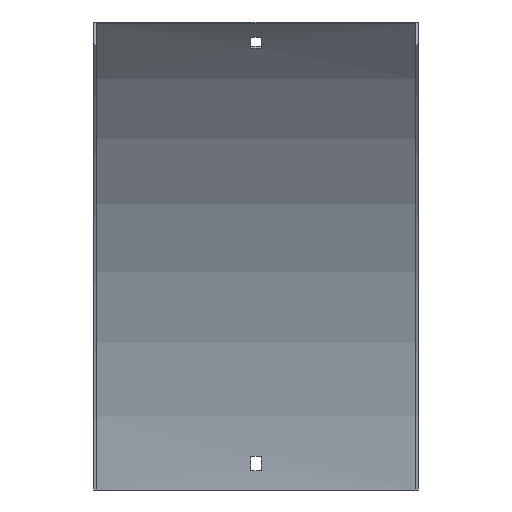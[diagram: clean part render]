
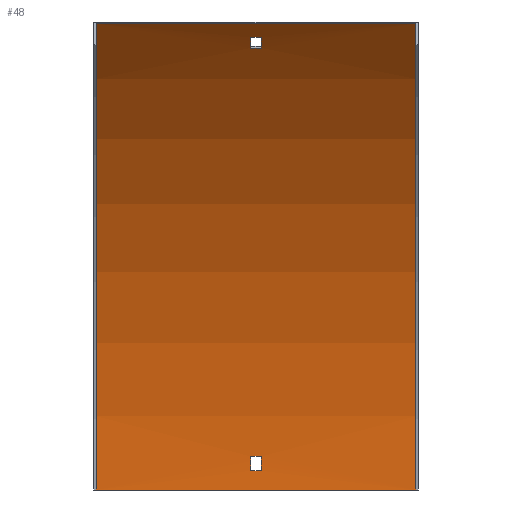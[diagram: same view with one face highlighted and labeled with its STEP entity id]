
A CAD part, front view. The second image highlights one B-rep face of the part: STEP entity #48.
In plain terms, the highlighted cylindrical face has radius 412.5 mm (diameter 825 mm), a partial arc.
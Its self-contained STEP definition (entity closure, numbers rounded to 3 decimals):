
#1 = VERTEX_POINT ( 'NONE', #219 ) ;
#3 = DIRECTION ( 'NONE',  ( 0., 0., 1. ) ) ;
#10 = LINE ( 'NONE', #348, #560 ) ;
#13 = VERTEX_POINT ( 'NONE', #375 ) ;
#16 = DIRECTION ( 'NONE',  ( 1., 0., 0. ) ) ;
#20 = EDGE_CURVE ( 'NONE', #205, #481, #157, .T. ) ;
#26 = VERTEX_POINT ( 'NONE', #268 ) ;
#29 = DIRECTION ( 'NONE',  ( 0., 0., 1. ) ) ;
#32 = EDGE_CURVE ( 'NONE', #239, #526, #380, .T. ) ;
#37 = FACE_BOUND ( 'NONE', #111, .T. ) ;
#45 = LINE ( 'NONE', #607, #509 ) ;
#48 = ADVANCED_FACE ( 'NONE', ( #282, #459, #37 ), #433, .F. ) ;
#51 = DIRECTION ( 'NONE',  ( 0., 0., 1. ) ) ;
#56 = ORIENTED_EDGE ( 'NONE', *, *, #152, .F. ) ;
#58 = CARTESIAN_POINT ( 'NONE',  ( 101.5, -107.847, 276.454 ) ) ;
#61 = ORIENTED_EDGE ( 'NONE', *, *, #176, .T. ) ;
#65 = EDGE_LOOP ( 'NONE', ( #103, #454, #346, #456 ) ) ;
#70 = VERTEX_POINT ( 'NONE', #286 ) ;
#72 = AXIS2_PLACEMENT_3D ( 'NONE', #442, #319, #51 ) ;
#73 = DIRECTION ( 'NONE',  ( -1., 0., 0. ) ) ;
#76 = VECTOR ( 'NONE', #514, 1000. ) ;
#80 = EDGE_CURVE ( 'NONE', #526, #26, #201, .T. ) ;
#81 = CARTESIAN_POINT ( 'NONE',  ( -3.25, -1.675, 12. ) ) ;
#82 = CIRCLE ( 'NONE', #427, 412.5 ) ;
#87 = EDGE_CURVE ( 'NONE', #527, #481, #385, .T. ) ;
#97 = DIRECTION ( 'NONE',  ( -1., 0., 0. ) ) ;
#103 = ORIENTED_EDGE ( 'NONE', *, *, #20, .F. ) ;
#108 = AXIS2_PLACEMENT_3D ( 'NONE', #366, #547, #133 ) ;
#110 = DIRECTION ( 'NONE',  ( -1., 0., 0. ) ) ;
#111 = EDGE_LOOP ( 'NONE', ( #61, #324, #582, #215 ) ) ;
#115 = ORIENTED_EDGE ( 'NONE', *, *, #356, .F. ) ;
#124 = CARTESIAN_POINT ( 'NONE',  ( 3.25, -2.035, 21. ) ) ;
#130 = DIRECTION ( 'NONE',  ( 0., 0., -1. ) ) ;
#132 = VECTOR ( 'NONE', #110, 1000. ) ;
#133 = DIRECTION ( 'NONE',  ( 0., 0., -1. ) ) ;
#134 = CARTESIAN_POINT ( 'NONE',  ( 3.25, -1.675, 12. ) ) ;
#141 = DIRECTION ( 'NONE',  ( 1., 0., 0. ) ) ;
#152 = EDGE_CURVE ( 'NONE', #301, #13, #45, .T. ) ;
#156 = ORIENTED_EDGE ( 'NONE', *, *, #334, .F. ) ;
#157 = CIRCLE ( 'NONE', #537, 412.5 ) ;
#164 = LINE ( 'NONE', #568, #294 ) ;
#176 = EDGE_CURVE ( 'NONE', #70, #239, #208, .T. ) ;
#184 = EDGE_CURVE ( 'NONE', #1, #527, #497, .T. ) ;
#191 = CARTESIAN_POINT ( 'NONE',  ( 101.5, -113.957, 283.073 ) ) ;
#192 = CIRCLE ( 'NONE', #549, 412.5 ) ;
#198 = DIRECTION ( 'NONE',  ( -1., 0., 0. ) ) ;
#201 = LINE ( 'NONE', #191, #76 ) ;
#205 = VERTEX_POINT ( 'NONE', #213 ) ;
#208 = LINE ( 'NONE', #58, #132 ) ;
#213 = CARTESIAN_POINT ( 'NONE',  ( -100., -1.5, 0. ) ) ;
#215 = ORIENTED_EDGE ( 'NONE', *, *, #437, .T. ) ;
#219 = CARTESIAN_POINT ( 'NONE',  ( 100., -1.5, 0. ) ) ;
#239 = VERTEX_POINT ( 'NONE', #345 ) ;
#242 = EDGE_CURVE ( 'NONE', #1, #205, #10, .T. ) ;
#253 = CARTESIAN_POINT ( 'NONE',  ( -100., -122.318, 291.682 ) ) ;
#262 = AXIS2_PLACEMENT_3D ( 'NONE', #333, #297, #3 ) ;
#268 = CARTESIAN_POINT ( 'NONE',  ( 3.25, -113.957, 283.073 ) ) ;
#282 = FACE_BOUND ( 'NONE', #562, .T. ) ;
#286 = CARTESIAN_POINT ( 'NONE',  ( 3.25, -107.847, 276.454 ) ) ;
#294 = VECTOR ( 'NONE', #16, 1000. ) ;
#295 = VECTOR ( 'NONE', #97, 1000. ) ;
#297 = DIRECTION ( 'NONE',  ( -1., 0., 0. ) ) ;
#301 = VERTEX_POINT ( 'NONE', #124 ) ;
#303 = DIRECTION ( 'NONE',  ( 0., 0., -1. ) ) ;
#311 = CARTESIAN_POINT ( 'NONE',  ( 100., -414., 0. ) ) ;
#319 = DIRECTION ( 'NONE',  ( -1., 0., 0. ) ) ;
#324 = ORIENTED_EDGE ( 'NONE', *, *, #32, .T. ) ;
#326 = CARTESIAN_POINT ( 'NONE',  ( 3.25, -414., 0. ) ) ;
#333 = CARTESIAN_POINT ( 'NONE',  ( 101.5, -414., 0. ) ) ;
#334 = EDGE_CURVE ( 'NONE', #13, #574, #82, .T. ) ;
#345 = CARTESIAN_POINT ( 'NONE',  ( -3.25, -107.847, 276.454 ) ) ;
#346 = ORIENTED_EDGE ( 'NONE', *, *, #184, .T. ) ;
#348 = CARTESIAN_POINT ( 'NONE',  ( 100., -1.5, 0. ) ) ;
#356 = EDGE_CURVE ( 'NONE', #358, #301, #192, .T. ) ;
#358 = VERTEX_POINT ( 'NONE', #134 ) ;
#364 = CARTESIAN_POINT ( 'NONE',  ( 100., -122.318, 291.682 ) ) ;
#366 = CARTESIAN_POINT ( 'NONE',  ( -3.25, -414., 0. ) ) ;
#375 = CARTESIAN_POINT ( 'NONE',  ( -3.25, -2.035, 21. ) ) ;
#380 = CIRCLE ( 'NONE', #108, 412.5 ) ;
#385 = LINE ( 'NONE', #595, #295 ) ;
#406 = ORIENTED_EDGE ( 'NONE', *, *, #492, .F. ) ;
#422 = CIRCLE ( 'NONE', #72, 412.5 ) ;
#427 = AXIS2_PLACEMENT_3D ( 'NONE', #494, #73, #29 ) ;
#433 = CYLINDRICAL_SURFACE ( 'NONE', #262, 412.5 ) ;
#437 = EDGE_CURVE ( 'NONE', #26, #70, #422, .T. ) ;
#442 = CARTESIAN_POINT ( 'NONE',  ( 3.25, -414., 0. ) ) ;
#451 = CARTESIAN_POINT ( 'NONE',  ( -3.25, -113.957, 283.073 ) ) ;
#453 = CARTESIAN_POINT ( 'NONE',  ( -100., -414., 0. ) ) ;
#454 = ORIENTED_EDGE ( 'NONE', *, *, #242, .F. ) ;
#456 = ORIENTED_EDGE ( 'NONE', *, *, #87, .T. ) ;
#459 = FACE_OUTER_BOUND ( 'NONE', #65, .T. ) ;
#481 = VERTEX_POINT ( 'NONE', #253 ) ;
#485 = DIRECTION ( 'NONE',  ( 1., 0., 0. ) ) ;
#492 = EDGE_CURVE ( 'NONE', #574, #358, #164, .T. ) ;
#494 = CARTESIAN_POINT ( 'NONE',  ( -3.25, -414., 0. ) ) ;
#497 = CIRCLE ( 'NONE', #541, 412.5 ) ;
#499 = DIRECTION ( 'NONE',  ( 0., 0., -1. ) ) ;
#503 = DIRECTION ( 'NONE',  ( 1., 0., 0. ) ) ;
#509 = VECTOR ( 'NONE', #198, 1000. ) ;
#514 = DIRECTION ( 'NONE',  ( 1., 0., 0. ) ) ;
#526 = VERTEX_POINT ( 'NONE', #451 ) ;
#527 = VERTEX_POINT ( 'NONE', #364 ) ;
#533 = DIRECTION ( 'NONE',  ( -1., 0., 0. ) ) ;
#537 = AXIS2_PLACEMENT_3D ( 'NONE', #453, #141, #499 ) ;
#541 = AXIS2_PLACEMENT_3D ( 'NONE', #311, #485, #303 ) ;
#547 = DIRECTION ( 'NONE',  ( 1., 0., 0. ) ) ;
#549 = AXIS2_PLACEMENT_3D ( 'NONE', #326, #503, #130 ) ;
#560 = VECTOR ( 'NONE', #533, 1000. ) ;
#562 = EDGE_LOOP ( 'NONE', ( #156, #56, #115, #406 ) ) ;
#568 = CARTESIAN_POINT ( 'NONE',  ( 101.5, -1.675, 12. ) ) ;
#574 = VERTEX_POINT ( 'NONE', #81 ) ;
#582 = ORIENTED_EDGE ( 'NONE', *, *, #80, .T. ) ;
#595 = CARTESIAN_POINT ( 'NONE',  ( 100., -122.318, 291.682 ) ) ;
#607 = CARTESIAN_POINT ( 'NONE',  ( 101.5, -2.035, 21. ) ) ;
